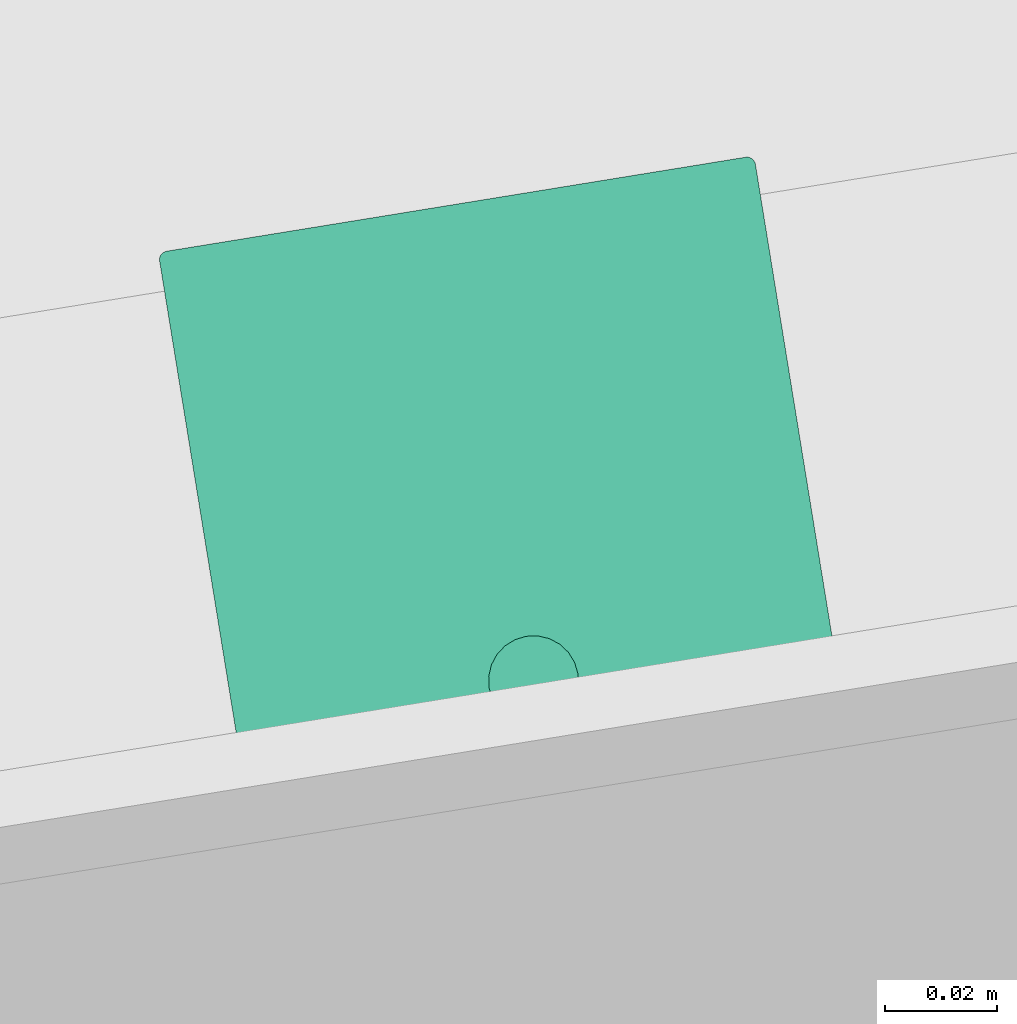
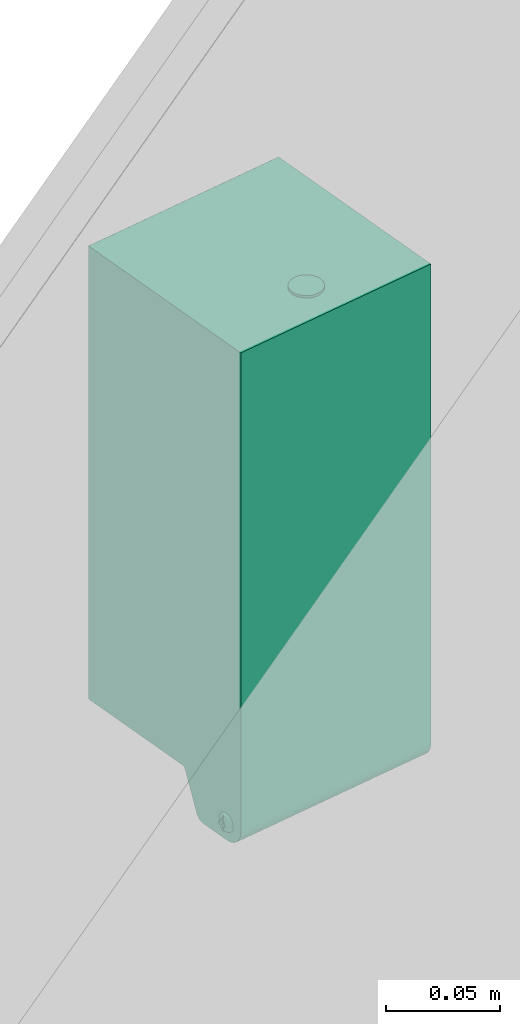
# One storey, part 34 of 38: 1 flow terminal.
"""IFC2X3 building model written with IfcOpenShell, lengths in millimetres."""

from ifc_helpers import new_model, entity, si_unit, converted_unit, derived_unit, direction, frame, origin, origin_with_axes, place, context, subcontext, project, spatial, face_set, surface_model, source, transform, mapped, material, material_list, type_object, element, save


model = new_model("IFC2X3")

# Units and contexts
model_context = context("Model", 3, precision=0.01, world=origin(), true_north=direction((6.12323399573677e-17, 1.0)))
plan_context = context("Plan", 3, precision=1e-05, world=origin_with_axes())
body_context = subcontext(model_context, "Body", "Model", "MODEL_VIEW")
ifc_project = project(units=[converted_unit("PLANEANGLEUNIT", "DEGREE", entity("IfcPositiveLengthMeasure", 0.0174532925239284), si_unit("PLANEANGLEUNIT", "RADIAN"), dimensions=[0, 0, 0, 0, 0, 0, 0]), si_unit("AREAUNIT", "SQUARE_METRE"), si_unit("LENGTHUNIT", "METRE", prefix="MILLI"), si_unit("MASSUNIT", "GRAM", prefix="KILO"), si_unit("POWERUNIT", "WATT"), si_unit("PRESSUREUNIT", "PASCAL", prefix="KILO"), si_unit("FORCEUNIT", "NEWTON", prefix="KILO"), si_unit("ELECTRICVOLTAGEUNIT", "VOLT"), si_unit("ELECTRICCURRENTUNIT", "AMPERE"), si_unit("THERMODYNAMICTEMPERATUREUNIT", "DEGREE_CELSIUS"), si_unit("TIMEUNIT", "SECOND"), si_unit("VOLUMEUNIT", "CUBIC_METRE"), derived_unit("LINEARVELOCITYUNIT", [(si_unit("LENGTHUNIT", "METRE"), 1), (si_unit("TIMEUNIT", "SECOND"), -1)]), derived_unit("VOLUMETRICFLOWRATEUNIT", [(si_unit("VOLUMEUNIT", "CUBIC_METRE"), 1), (si_unit("TIMEUNIT", "SECOND"), -1)]), derived_unit("THERMALTRANSMITTANCEUNIT", [(si_unit("POWERUNIT", "WATT"), 1), (si_unit("THERMODYNAMICTEMPERATUREUNIT", "KELVIN"), -1), (si_unit("AREAUNIT", "SQUARE_METRE"), -1)]), derived_unit("SOUNDPRESSUREUNIT", [(si_unit("PRESSUREUNIT", "PASCAL"), 1)])], contexts=[model_context, plan_context])

# Site, building, storey
site_placement = place(None, frame((-0.00071070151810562, 0.00438415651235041, 0.0), z_axis=(0.0, 0.0, 1.0), x_axis=(-0.160236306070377, 0.987078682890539, 0.0)))
site = spatial("IfcSite", under=ifc_project, at=site_placement, Name="Default", CompositionType="ELEMENT")
building_placement = place(site_placement, origin_with_axes())
building = spatial("IfcBuilding", under=site, at=building_placement, Name="TOO", CompositionType="ELEMENT")
storey_placement = place(building_placement, frame((0.0, 0.0, 50999.9999999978), z_axis=(0.0, 0.0, 1.0), x_axis=(1.0, 0.0, 0.0)))
storey = spatial("IfcBuildingStorey", under=building, at=storey_placement, Name="Nivå D-H01", CompositionType="ELEMENT", Elevation=50999.9999999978)

# Flow terminal
ifc_material_1 = material(Name="GFRP")
ifc_material_2 = material(Name="Satin")
ifc_material_list_1 = material_list([ifc_material_1, ifc_material_2])
ifc_material_list_2 = material_list([ifc_material_2, ifc_material_1])
distribution_element_type = type_object("IfcDistributionElementType", Name="A274 - Såp dispenser-berøringsfri:Såp-berøringsfri", material=ifc_material_list_2)
shared_shape = source(origin(), body_context, "Body", "SurfaceModel", [
    surface_model("IfcFaceBasedSurfaceModel", [(53.867833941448, -70.0655699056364, 28.580410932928), (53.867833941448, -70.0655699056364, 23.5804109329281), (49.562616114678, -74.3707877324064, 23.5804109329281), (49.562616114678, -74.3707877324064, 28.580410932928), (53.867833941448, -78.6760055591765, 23.5804109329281), (53.867833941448, -78.6760055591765, 28.580410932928), (58.173051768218, -74.3707877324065, 23.5804109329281), (58.173051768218, -74.3707877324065, 28.580410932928), (53.867833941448, -74.3707877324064, 28.580410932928), (51.6222204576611, -74.3707877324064, 10.5765808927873), (53.867833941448, -74.3707877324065, 10.5765808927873), (53.867833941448, -76.6164012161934, 10.5765808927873), (53.867833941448, -72.1251742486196, 10.5765808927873), (56.1134474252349, -74.3707877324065, 10.5765808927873)], [face_set([[[0, 1, 2, 3]], [[2, 4, 5, 3]], [[5, 4, 6, 7]], [[6, 1, 0, 7]], [[5, 8, 3]], [[5, 7, 8]], [[0, 8, 7]], [[0, 3, 8]], [[9, 10, 11]], [[10, 9, 12]], [[13, 10, 12]], [[10, 13, 11]], [[12, 9, 2, 1]], [[2, 9, 11, 4]], [[11, 13, 6, 4]], [[6, 13, 12, 1]]])]),
    surface_model("IfcFaceBasedSurfaceModel", [(108.0, -39.4140796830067, 23.580410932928), (108.0, -30.697885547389, 3.04634435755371), (108.0, -30.1198302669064, 2.0329055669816), (108.0, -29.3226497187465, 1.1810198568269), (108.0, -28.3497489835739, 0.537070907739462), (108.0, -27.2541007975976, 0.136120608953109), (108.0, -26.0953612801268, 0.0), (108.0, -9.47406113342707, 0.0), (108.0, -7.02199367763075, 0.322820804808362), (108.0, -4.73703056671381, 1.26928351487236), (108.0, -2.77488826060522, 2.77488826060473), (108.0, -1.26928351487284, 4.73703056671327), (108.0, -0.322820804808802, 7.02199367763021), (108.0, 0.0, 9.47406113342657), (108.0, 0.0, 267.0), (108.0, -102.0, 267.0), (108.0, -105.492714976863, 267.0), (108.0, -105.492714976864, 23.5804109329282), (108.0, -102.0, 23.5804109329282), (108.0, -10.1917276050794, 14.4016882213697), (108.0, -8.90825756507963, 14.2327161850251), (108.0, -7.71225388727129, 13.7373152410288), (108.0, -6.68522224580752, 12.9492461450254), (108.0, -5.89715314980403, 11.9222145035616), (108.0, -5.4017522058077, 10.7262108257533), (108.0, -5.23278016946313, 9.44274078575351), (108.0, -5.40175220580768, 8.15927074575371), (108.0, -5.89715314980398, 6.96326706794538), (108.0, -6.68522224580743, 5.93623542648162), (108.0, -7.71225388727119, 5.14816633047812), (108.0, -8.90825756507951, 4.65276538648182), (108.0, -10.1917276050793, 4.48379335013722), (108.0, -11.4751976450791, 4.65276538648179), (108.0, -12.6712013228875, 5.14816633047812), (108.0, -13.6982329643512, 5.93623542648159), (108.0, -14.4863020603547, 6.96326706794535), (108.0, -14.981703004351, 8.15927074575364), (108.0, -15.1506750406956, 9.44274078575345), (108.0, -14.981703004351, 10.7262108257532), (108.0, -14.4863020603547, 11.9222145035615), (108.0, -13.6982329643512, 12.9492461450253), (108.0, -12.6712013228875, 13.7373152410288), (108.0, -11.4751976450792, 14.2327161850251), (0.0, 0.0, 267.0), (0.0, 0.0, 9.47406113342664), (0.0, -0.322820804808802, 7.02199367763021), (0.0, -1.26928351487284, 4.73703056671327), (0.0, -2.77488826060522, 2.77488826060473), (0.0, -4.73703056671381, 1.26928351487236), (0.0, -7.02199367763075, 0.322820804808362), (0.0, -9.47406113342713, 0.0), (0.0, -26.0953612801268, 0.0), (0.0, -27.2541007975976, 0.136120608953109), (0.0, -28.3497489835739, 0.537070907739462), (0.0, -29.3226497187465, 1.1810198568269), (0.0, -30.1198302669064, 2.0329055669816), (0.0, -30.697885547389, 3.04634435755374), (0.0, -39.4140796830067, 23.580410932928), (0.0, -102.0, 23.5804109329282), (0.0, -105.492714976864, 23.5804109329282), (0.0, -105.492714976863, 267.0), (0.0, -102.0, 267.0), (0.0, -10.1917276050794, 4.47674269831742), (0.0, -8.90825756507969, 4.64571473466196), (0.0, -7.71225388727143, 5.14111567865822), (0.0, -6.68522224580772, 5.92918477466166), (0.0, -5.89715314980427, 6.95621641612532), (0.0, -5.40175220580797, 8.15222009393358), (0.0, -5.2327801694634, 9.43569013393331), (0.0, -5.40175220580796, 10.719160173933), (0.0, -5.89715314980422, 11.9151638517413), (0.0, -6.68522224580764, 12.942195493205), (0.0, -7.71225388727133, 13.7302645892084), (0.0, -8.90825756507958, 14.2256655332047), (0.0, -10.1917276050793, 14.3946375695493), (0.0, -11.4751976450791, 14.2256655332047), (0.0, -12.6712013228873, 13.7302645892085), (0.0, -13.698232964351, 12.942195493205), (0.0, -14.4863020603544, 11.9151638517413), (0.0, -14.9817030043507, 10.7191601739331), (0.0, -15.1506750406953, 9.43569013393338), (0.0, -14.9817030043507, 8.15222009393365), (0.0, -14.4863020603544, 6.95621641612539), (0.0, -13.698232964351, 5.92918477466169), (0.0, -12.6712013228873, 5.14111567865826), (0.0, -11.4751976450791, 4.645714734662), (62.0462019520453, -20.6328952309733, 267.0), (61.7720342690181, -22.7154055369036, 267.0), (60.9682152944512, -24.6559962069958, 267.0), (59.6895239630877, -26.3224191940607, 267.0), (58.0231009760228, -27.6011105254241, 267.0), (56.0825103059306, -28.404929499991, 267.0), (54.0, -28.6790971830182, 267.0), (51.9174896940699, -28.404929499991, 267.0), (49.9768990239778, -27.6011105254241, 267.0), (48.3104760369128, -26.3224191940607, 267.0), (47.0317847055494, -24.6559962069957, 267.0), (46.2279657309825, -22.7154055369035, 267.0), (45.9537980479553, -20.6328952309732, 267.0), (46.2279657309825, -18.5503849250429, 267.0), (47.0317847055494, -16.6097942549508, 267.0), (48.3104760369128, -14.9433712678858, 267.0), (49.9768990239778, -13.6646799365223, 267.0), (51.9174896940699, -12.8608609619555, 267.0), (54.0, -12.5866932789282, 267.0), (56.0825103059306, -12.8608609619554, 267.0), (58.0231009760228, -13.6646799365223, 267.0), (59.6895239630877, -14.9433712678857, 267.0), (60.9682152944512, -16.6097942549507, 267.0), (61.7720342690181, -18.5503849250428, 267.0), (106.492714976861, -107.0, 265.49271497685), (1.50728502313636, -107.0, 265.49271497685), (1.50728502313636, -107.0, 25.0876959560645), (106.492714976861, -107.0, 25.0876959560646), (52.7912009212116, -66.0156781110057, 23.5804109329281), (53.8678339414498, -66.0156781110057, 23.5804109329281), (54.8864505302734, -66.0156781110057, 23.5804109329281), (56.180545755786, -66.1860489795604, 23.5804109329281), (57.3864505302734, -66.6855510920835, 23.5804109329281), (58.4219844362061, -67.480144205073, 23.5804109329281), (59.2165775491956, -68.5156781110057, 23.5804109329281), (59.7160796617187, -69.7215828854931, 23.5804109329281), (59.8864505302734, -71.0156781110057, 23.5804109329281), (59.8864505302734, -78.2876945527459, 23.5804109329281), (59.7160796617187, -79.5817897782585, 23.5804109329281), (59.2165775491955, -80.7876945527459, 23.5804109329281), (58.421984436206, -81.8232284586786, 23.5804109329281), (57.3864505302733, -82.6178215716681, 23.5804109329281), (56.1805457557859, -83.1173236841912, 23.5804109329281), (54.8864505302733, -83.2876945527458, 23.5804109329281), (53.8678339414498, -83.2876945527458, 23.5804109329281), (52.7912009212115, -83.2876945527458, 23.5804109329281), (51.4971056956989, -83.1173236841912, 23.5804109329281), (50.2912009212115, -82.617821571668, 23.5804109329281), (49.2556670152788, -81.8232284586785, 23.5804109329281), (48.4610739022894, -80.7876945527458, 23.5804109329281), (47.9615717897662, -79.5817897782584, 23.5804109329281), (47.7912009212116, -78.2876945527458, 23.5804109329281), (47.7912009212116, -71.0156781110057, 23.5804109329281), (47.9615717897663, -69.721582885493, 23.5804109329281), (48.4610739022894, -68.5156781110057, 23.5804109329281), (49.2556670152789, -67.4801442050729, 23.5804109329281), (50.2912009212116, -66.6855510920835, 23.5804109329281), (51.497105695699, -66.1860489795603, 23.5804109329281), (21.4393647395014, -65.982107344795, 23.5804109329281), (34.9323252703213, -65.982107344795, 23.5804109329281), (35.8346332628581, -66.1008984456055, 23.5804109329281), (36.675450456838, -66.4491763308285, 23.5804109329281), (37.3974765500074, -67.0032064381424, 23.5804109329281), (37.9515066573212, -67.7252325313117, 23.5804109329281), (38.2997845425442, -68.5660497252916, 23.5804109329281), (38.4185756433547, -69.4683577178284, 23.5804109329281), (38.4185756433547, -75.8811109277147, 23.5804109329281), (38.2982643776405, -76.7949657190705, 23.5804109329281), (37.9455295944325, -77.6465428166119, 23.5804109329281), (37.3844095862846, -78.3778086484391, 23.5804109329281), (36.6531437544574, -78.9389286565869, 23.5804109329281), (35.801566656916, -79.2916634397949, 23.5804109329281), (34.8877118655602, -79.4119747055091, 23.5804109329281), (21.5001245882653, -79.4119747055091, 23.5804109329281), (20.5896400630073, -79.2921071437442, 23.5804109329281), (19.7412035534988, -78.9406732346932, 23.5804109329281), (19.0126346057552, -78.3816226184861, 23.5804109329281), (18.4535839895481, -77.6530536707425, 23.5804109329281), (18.1021500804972, -76.804617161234, 23.5804109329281), (17.9822825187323, -75.8941326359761, 23.5804109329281), (17.9822825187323, -69.4391895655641, 23.5804109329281), (18.1000797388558, -68.5444308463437, 23.5804109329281), (18.4454437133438, -67.7106484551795, 23.5804109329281), (18.9948384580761, -66.9946632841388, 23.5804109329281), (19.7108236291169, -66.4452685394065, 23.5804109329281), (20.5446060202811, -66.0999045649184, 23.5804109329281), (0.0513594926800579, -105.882826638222, 266.948640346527), (107.948643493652, -105.882826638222, 266.948640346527), (0.201937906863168, -106.24635822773, 266.798068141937), (107.798062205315, -106.24635822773, 266.798068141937), (0.441473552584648, -106.558530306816, 266.55852971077), (107.558523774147, -106.558530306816, 266.55852971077), (107.246360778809, -106.798059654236, 266.246357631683), (0.753642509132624, -106.798059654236, 266.246357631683), (1.11717097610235, -106.948640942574, 265.882826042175), (106.882829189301, -106.948640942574, 265.882826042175), (107.948643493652, -105.882826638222, 23.6317697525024), (107.798062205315, -106.24635822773, 23.7823487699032), (107.558523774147, -106.558530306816, 24.0218849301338), (107.246360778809, -106.798059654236, 24.3340524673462), (106.882829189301, -106.948640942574, 24.6975817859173), (0.0513594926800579, -105.882826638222, 23.6317697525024), (0.201937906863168, -106.24635822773, 23.7823487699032), (0.441473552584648, -106.558530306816, 24.0218849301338), (0.753642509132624, -106.798059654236, 24.3340524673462), (1.11717097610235, -106.948640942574, 24.6975817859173), (103.0, -103.251438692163, 262.0), (103.0, -103.251438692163, 36.8655832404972), (103.0, -5.0, 36.8655832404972), (103.0, -5.0, 262.0), (5.0, -103.251438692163, 262.0), (5.0, -103.251438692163, 36.8655832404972), (5.0, -5.0, 36.8655832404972), (5.0, -5.0, 262.0), (22.8256689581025, -77.59544538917, 36.8655832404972), (22.0943320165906, -77.499163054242, 36.8655832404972), (21.4128344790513, -77.2168775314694, 36.8655832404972), (20.8276192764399, -76.7678261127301, 36.8655832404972), (20.3785678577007, -76.1826109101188, 36.8655832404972), (20.0962823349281, -75.5011133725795, 36.8655832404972), (20.0, -74.7697764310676, 36.8655832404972), (20.0, -70.2955045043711, 36.8655832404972), (20.0960772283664, -69.565725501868, 36.8655832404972), (20.3777614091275, -68.8856797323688, 36.8655832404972), (20.8258562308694, -68.3017111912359, 36.8655832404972), (21.4098247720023, -67.853616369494, 36.8655832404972), (22.0898705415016, -67.5719321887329, 36.8655832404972), (22.8196495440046, -67.4758549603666, 36.8655832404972), (27.3662521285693, -67.4758549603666, 36.8655832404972), (27.3662521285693, -77.5954453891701, 36.8655832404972), (33.6447360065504, -67.4758549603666, 36.8655832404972), (34.3668779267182, -67.5709267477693, 36.8655832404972), (35.0398070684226, -67.8496631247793, 36.8655832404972), (35.6176644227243, -68.2930686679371, 36.8655832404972), (36.0610699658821, -68.8709260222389, 36.8655832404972), (36.3398063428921, -69.5438551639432, 36.8655832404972), (36.4348781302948, -70.2659970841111, 36.8655832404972), (36.4348781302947, -74.7965946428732, 36.8655832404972), (36.3395096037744, -75.5209905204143, 36.8655832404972), (36.059903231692, -76.1960200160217, 36.8655832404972), (35.6151137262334, -76.7756809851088, 36.8655832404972), (35.0354527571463, -77.2204704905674, 36.8655832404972), (34.3604232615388, -77.5000768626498, 36.8655832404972), (33.6360273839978, -77.5954453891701, 36.8655832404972), (29.2343736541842, -77.5954453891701, 36.8655832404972), (29.2343736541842, -67.4758549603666, 36.8655832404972), (45.9537980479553, -20.6328952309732, 268.289828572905), (46.2279657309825, -22.7154055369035, 268.289828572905), (47.0317847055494, -24.6559962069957, 268.289828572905), (48.3104760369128, -26.3224191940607, 268.289828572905), (49.9768990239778, -27.6011105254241, 268.289828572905), (51.9174896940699, -28.404929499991, 268.289828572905), (54.0, -28.6790971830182, 268.289828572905), (56.0825103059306, -28.404929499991, 268.289828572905), (58.0231009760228, -27.6011105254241, 268.289828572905), (59.6895239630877, -26.3224191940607, 268.289828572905), (60.9682152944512, -24.6559962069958, 268.289828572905), (61.7720342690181, -22.7154055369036, 268.289828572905), (62.0462019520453, -20.6328952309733, 268.289828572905), (61.7720342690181, -18.5503849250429, 268.289828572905), (60.9682152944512, -16.6097942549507, 268.289828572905), (59.6895239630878, -14.9433712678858, 268.289828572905), (58.0231009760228, -13.6646799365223, 268.289828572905), (56.0825103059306, -12.8608609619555, 268.289828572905), (54.0, -12.5866932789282, 268.289828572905), (51.91748969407, -12.8608609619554, 268.289828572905), (49.9768990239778, -13.6646799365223, 268.289828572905), (48.3104760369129, -14.9433712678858, 268.289828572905), (47.0317847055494, -16.6097942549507, 268.289828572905), (46.2279657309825, -18.5503849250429, 268.289828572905), (-1.7359445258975, -10.1917277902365, 8.08627173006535), (-2.57580088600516, -10.1917277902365, 6.98785131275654), (-2.57580088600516, -7.74388880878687, 9.43569029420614), (-1.582628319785, -10.1917277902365, 8.77226217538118), (-2.16289401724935, -10.1917277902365, 11.3435016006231), (-1.7359445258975, -10.1917277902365, 10.7851088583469), (-1.43435472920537, -10.1917277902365, 9.43569029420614), (-1.582628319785, -10.1917277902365, 10.0991178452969), (-2.57580088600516, -10.1917277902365, 11.8835292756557), (-2.57580088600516, -12.6395662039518, 9.43569029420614), (-2.16289401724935, -10.1917277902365, 7.52787842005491), (-2.05121104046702, -10.1917277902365, 12.820721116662), (-1.65959448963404, -10.1917277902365, 13.5203536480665), (-1.65959448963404, -10.1917277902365, 5.35102694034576), (-2.05121104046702, -10.1917277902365, 6.05065947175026), (110.575799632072, -7.74388880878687, 9.44274098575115), (110.575799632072, -10.1917277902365, 11.8905793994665), (109.735943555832, -10.1917277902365, 10.7921589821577), (109.582628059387, -10.1917277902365, 10.1061691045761), (110.162897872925, -10.1917277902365, 7.53492911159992), (109.735943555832, -10.1917277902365, 8.09332242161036), (109.434354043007, -10.1917277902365, 9.44274098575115), (109.582628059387, -10.1917277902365, 8.77931286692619), (110.575799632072, -10.1917277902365, 6.99490200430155), (110.575799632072, -12.6395662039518, 9.44274098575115), (110.162897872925, -10.1917277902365, 11.3505528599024), (110.05121319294, -10.1917277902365, 6.05771016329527), (109.659594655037, -10.1917277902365, 5.35807763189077), (109.659594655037, -10.1917277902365, 13.5274037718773), (110.05121319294, -10.1917277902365, 12.8277712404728), (52.7912009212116, -66.0156781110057, 21.9289741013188), (51.497105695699, -66.1860489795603, 21.9289741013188), (50.2912009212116, -66.6855510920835, 21.9289741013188), (49.2556670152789, -67.4801442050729, 21.9289741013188), (48.4610739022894, -68.5156781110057, 21.9289741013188), (47.9615717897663, -69.7215828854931, 21.9289741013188), (47.7912009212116, -71.0156781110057, 21.9289741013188), (47.7912009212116, -78.2876945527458, 21.9289741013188), (47.9615717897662, -79.5817897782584, 21.9289741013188), (48.4610739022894, -80.7876945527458, 21.9289741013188), (49.2556670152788, -81.8232284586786, 21.9289741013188), (50.2912009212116, -82.617821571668, 21.9289741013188), (51.4971056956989, -83.1173236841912, 21.9289741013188), (52.7912009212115, -83.2876945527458, 21.9289741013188), (53.8678339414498, -83.2876945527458, 21.9289741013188), (54.8864505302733, -83.2876945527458, 21.9289741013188), (56.1805457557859, -83.1173236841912, 21.9289741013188), (57.3864505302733, -82.617821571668, 21.9289741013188), (58.4219844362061, -81.8232284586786, 21.9289741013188), (59.2165775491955, -80.7876945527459, 21.9289741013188), (59.7160796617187, -79.5817897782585, 21.9289741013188), (59.8864505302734, -78.2876945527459, 21.9289741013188), (59.8864505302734, -71.0156781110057, 21.9289741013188), (59.7160796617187, -69.7215828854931, 21.9289741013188), (59.2165775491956, -68.5156781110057, 21.9289741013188), (58.4219844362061, -67.480144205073, 21.9289741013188), (57.3864505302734, -66.6855510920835, 21.9289741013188), (56.180545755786, -66.1860489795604, 21.9289741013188), (54.8864505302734, -66.0156781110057, 21.9289741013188), (53.8678339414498, -66.0156781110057, 21.9289741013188), (20.0962819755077, -75.5011146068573, 21.9289735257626), (20.3785685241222, -76.1826091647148, 21.9289735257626), (20.0000010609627, -74.7697775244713, 21.9289735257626), (20.8276190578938, -76.7678250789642, 21.9289735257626), (22.0943318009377, -77.4991667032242, 21.9289735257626), (22.8256688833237, -77.5954453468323, 21.9289735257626), (21.4128349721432, -77.2168801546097, 21.9289735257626), (27.3662521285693, -77.5954453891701, 21.9289741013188), (27.3662521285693, -67.4758549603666, 21.9289741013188), (22.8196495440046, -67.4758549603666, 21.9289741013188), (21.4098237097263, -67.8536162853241, 21.9289735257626), (22.0898694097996, -67.5719338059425, 21.9289735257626), (20.8258568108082, -68.3017130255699, 21.9289735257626), (20.0960775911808, -69.5657256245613, 21.9289735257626), (20.0000010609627, -70.2955048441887, 21.9289735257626), (20.3777623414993, -68.8856799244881, 21.9289735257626), (36.0610710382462, -68.8709279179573, 21.9289735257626), (36.3398058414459, -69.5438565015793, 21.9289735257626), (36.4348786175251, -70.2659962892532, 21.9289735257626), (35.617663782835, -68.2930698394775, 21.9289735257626), (33.6447350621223, -67.4758550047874, 21.9289735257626), (34.3668771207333, -67.5709255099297, 21.9289735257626), (35.0398079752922, -67.8496648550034, 21.9289735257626), (29.2343736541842, -67.4758549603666, 21.9289741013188), (29.2343736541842, -77.5954453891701, 21.9289741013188), (33.6360273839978, -77.5954453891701, 21.9289741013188), (34.3604231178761, -77.5000750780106, 21.9289735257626), (35.0354523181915, -77.2204682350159, 21.9289735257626), (35.6151135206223, -76.7756825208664, 21.9289735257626), (36.4348786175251, -74.7965927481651, 21.9289735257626), (36.3395106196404, -75.5209898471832, 21.9289735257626), (36.0599037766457, -76.1960213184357, 21.9289735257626), (21.4393647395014, -65.982107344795, 21.9289741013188), (20.5446060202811, -66.0999045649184, 21.9289741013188), (19.7108236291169, -66.4452685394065, 21.9289741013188), (18.9948384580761, -66.9946632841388, 21.9289741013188), (18.4454437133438, -67.7106484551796, 21.9289741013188), (18.1000797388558, -68.5444308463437, 21.9289741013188), (17.9822825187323, -69.4391895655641, 21.9289741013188), (17.9822825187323, -75.8941326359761, 21.9289741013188), (18.1021500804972, -76.8046171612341, 21.9289741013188), (18.4535839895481, -77.6530536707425, 21.9289741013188), (19.0126346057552, -78.3816226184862, 21.9289741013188), (19.7412035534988, -78.9406732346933, 21.9289741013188), (20.5896400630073, -79.2921071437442, 21.9289741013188), (21.5001245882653, -79.4119747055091, 21.9289741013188), (34.8877118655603, -79.4119747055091, 21.9289741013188), (35.8015666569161, -79.2916634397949, 21.9289741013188), (36.6531437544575, -78.9389286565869, 21.9289741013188), (37.3844095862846, -78.377808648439, 21.9289741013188), (37.9455295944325, -77.6465428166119, 21.9289741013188), (38.2982643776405, -76.7949657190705, 21.9289741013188), (38.4185756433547, -75.8811109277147, 21.9289741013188), (38.4185756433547, -69.4683577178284, 21.9289741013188), (38.2997845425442, -68.5660497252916, 21.9289741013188), (37.9515066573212, -67.7252325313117, 21.9289741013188), (37.3974765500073, -67.0032064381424, 21.9289741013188), (36.675450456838, -66.4491763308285, 21.9289741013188), (35.8346332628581, -66.1008984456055, 21.9289741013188), (34.9323252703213, -65.982107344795, 21.9289741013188)], [face_set([[[0, 1, 2, 3, 4, 5, 6, 7, 8, 9, 10, 11, 12, 13, 14, 15, 16, 17, 18], [19, 20, 21, 22, 23, 24, 25, 26, 27, 28, 29, 30, 31, 32, 33, 34, 35, 36, 37, 38, 39, 40, 41, 42]], [[43, 44, 45, 46, 47, 48, 49, 50, 51, 52, 53, 54, 55, 56, 57, 58, 59, 60, 61], [62, 63, 64, 65, 66, 67, 68, 69, 70, 71, 72, 73, 74, 75, 76, 77, 78, 79, 80, 81, 82, 83, 84, 85]], [[14, 43, 61, 60, 16, 15], [86, 87, 88, 89, 90, 91, 92, 93, 94, 95, 96, 97, 98, 99, 100, 101, 102, 103, 104, 105, 106, 107, 108, 109]], [[110, 111, 112, 113]], [[57, 58, 59, 17, 18, 0], [114, 115, 116, 117, 118, 119, 120, 121, 122, 123, 124, 125, 126, 127, 128, 129, 130, 131, 132, 133, 134, 135, 136, 137, 138, 139, 140, 141, 142, 143], [144, 145, 146, 147, 148, 149, 150, 151, 152, 153, 154, 155, 156, 157, 158, 159, 160, 161, 162, 163, 164, 165, 166, 167, 168, 169, 170, 171]], [[1, 0, 57, 56]], [[1, 56, 55, 2]], [[2, 55, 54, 3]], [[3, 54, 53, 4]], [[4, 53, 52, 5]], [[5, 52, 51, 6]], [[7, 6, 51, 50]], [[8, 49, 48, 9]], [[9, 48, 47, 10]], [[7, 50, 49, 8]], [[11, 46, 45, 12]], [[12, 45, 44, 13]], [[46, 11, 10, 47]], [[14, 13, 44, 43]], [[16, 60, 172, 173]], [[173, 172, 174, 175]], [[176, 177, 175, 174]], [[178, 179, 180, 181]], [[181, 180, 111, 110]], [[179, 178, 177, 176]], [[17, 16, 173, 182]], [[182, 173, 175, 183]], [[177, 184, 183, 175]], [[185, 178, 181, 186]], [[186, 181, 110, 113]], [[178, 185, 184, 177]], [[59, 17, 182, 187]], [[187, 182, 183, 188]], [[184, 189, 188, 183]], [[190, 185, 186, 191]], [[191, 186, 113, 112]], [[185, 190, 189, 184]], [[60, 59, 187, 172]], [[172, 187, 188, 174]], [[189, 176, 174, 188]], [[179, 190, 191, 180]], [[180, 191, 112, 111]], [[190, 179, 176, 189]], [[192, 193, 194, 195]], [[196, 197, 198, 199]], [[192, 196, 197, 193]], [[193, 194, 198, 197], [200, 201, 202, 203, 204, 205, 206, 207, 208, 209, 210, 211, 212, 213, 214, 215], [216, 217, 218, 219, 220, 221, 222, 223, 224, 225, 226, 227, 228, 229, 230, 231]], [[194, 195, 199, 198]], [[195, 199, 196, 192]], [[232, 233, 234, 235, 236, 237, 238, 239, 240, 241, 242, 243, 244, 245, 246, 247, 248, 249, 250, 251, 252, 253, 254, 255]], [[98, 97, 233, 232]], [[233, 234, 96, 97]], [[235, 236, 94, 95]], [[234, 235, 95, 96]], [[236, 237, 93, 94]], [[92, 93, 237, 238]], [[238, 239, 91, 92]], [[239, 240, 90, 91]], [[241, 242, 88, 89]], [[240, 241, 89, 90]], [[242, 243, 87, 88]], [[244, 243, 87, 86]], [[86, 109, 245, 244]], [[109, 108, 246, 245]], [[107, 106, 248, 247]], [[108, 107, 247, 246]], [[106, 105, 249, 248]], [[250, 249, 105, 104]], [[104, 103, 251, 250]], [[103, 102, 252, 251]], [[101, 100, 254, 253]], [[102, 101, 253, 252]], [[100, 99, 255, 254]], [[232, 255, 99, 98]], [[256, 257, 258]], [[259, 256, 260, 261]], [[262, 259, 261, 263]], [[256, 260, 258]], [[260, 264, 258]], [[261, 265, 264]], [[266, 265, 257]], [[256, 261, 263, 262]], [[261, 266, 265]], [[256, 266, 261]], [[267, 268, 269, 270]], [[257, 258, 270]], [[269, 68, 67]], [[269, 67, 66]], [[63, 62, 269]], [[270, 267, 258]], [[65, 64, 269]], [[66, 65, 269]], [[63, 269, 64]], [[258, 264, 267]], [[69, 68, 268]], [[268, 68, 269]], [[69, 268, 70]], [[71, 70, 268]], [[268, 72, 73]], [[268, 73, 74]], [[72, 268, 71]], [[265, 264, 268]], [[80, 79, 268]], [[268, 79, 78]], [[77, 78, 268]], [[268, 74, 75]], [[268, 76, 77]], [[76, 268, 75]], [[269, 265, 268]], [[81, 80, 269]], [[269, 80, 268]], [[265, 257, 269]], [[81, 269, 82]], [[83, 82, 269]], [[85, 84, 269]], [[62, 85, 269]], [[83, 269, 84]], [[271, 272, 273]], [[274, 273, 275, 276]], [[277, 274, 276, 278]], [[273, 275, 271]], [[271, 279, 275]], [[279, 280, 276]], [[272, 280, 281]], [[273, 276, 278, 277]], [[276, 281, 280]], [[273, 281, 276]], [[282, 283, 284, 285]], [[272, 271, 285]], [[284, 25, 24]], [[284, 24, 23]], [[284, 19, 20]], [[285, 282, 271]], [[284, 21, 22]], [[23, 22, 284]], [[21, 284, 20]], [[271, 279, 282]], [[26, 25, 283]], [[283, 25, 284]], [[26, 283, 27]], [[28, 27, 283]], [[30, 29, 283]], [[31, 30, 283]], [[28, 283, 29]], [[283, 279, 280]], [[37, 36, 283]], [[283, 36, 35]], [[283, 35, 34]], [[32, 31, 283]], [[34, 33, 283]], [[32, 283, 33]], [[284, 280, 283]], [[38, 37, 284]], [[284, 37, 283]], [[284, 272, 280]], [[38, 284, 39]], [[284, 39, 40]], [[284, 41, 42]], [[284, 42, 19]], [[41, 284, 40]], [[286, 287, 288, 289, 290, 291, 292, 293, 294, 295, 296, 297, 298, 299, 300, 301, 302, 303, 304, 305, 306, 307, 308, 309, 310, 311, 312, 313, 314, 315]], [[114, 143, 287, 286]], [[143, 142, 288, 287]], [[289, 288, 142, 141]], [[141, 140, 290, 289]], [[140, 139, 291, 290]], [[138, 139, 291, 292]], [[292, 138, 137, 293]], [[293, 294, 136, 137]], [[294, 295, 135, 136]], [[134, 135, 295, 296]], [[296, 297, 133, 134]], [[297, 298, 132, 133]], [[131, 132, 298, 299]], [[299, 300, 130, 131]], [[300, 301, 129, 130]], [[301, 302, 128, 129]], [[302, 303, 127, 128]], [[126, 127, 303, 304]], [[304, 305, 125, 126]], [[305, 306, 124, 125]], [[123, 124, 306, 307]], [[307, 308, 122, 123]], [[308, 309, 121, 122]], [[121, 120, 310, 309]], [[311, 310, 120, 119]], [[119, 118, 312, 311]], [[118, 117, 313, 312]], [[314, 313, 117, 116]], [[314, 116, 115, 315]], [[315, 115, 114, 286]], [[205, 316, 317, 204]], [[206, 318, 316, 205]], [[319, 203, 204, 317]], [[201, 320, 321, 200]], [[202, 322, 320, 201]], [[322, 202, 203, 319]], [[321, 323, 215, 200]], [[323, 324, 214, 215]], [[324, 214, 213, 325]], [[211, 326, 327, 212]], [[212, 327, 325, 213]], [[328, 210, 211, 326]], [[208, 329, 330, 207]], [[209, 331, 329, 208]], [[331, 209, 210, 328]], [[206, 318, 330, 207]], [[220, 332, 333, 221]], [[221, 333, 334, 222]], [[332, 220, 219, 335]], [[216, 336, 337, 217]], [[217, 337, 338, 218]], [[335, 219, 218, 338]], [[336, 216, 231, 339]], [[339, 231, 230, 340]], [[340, 341, 229, 230]], [[228, 342, 343, 227]], [[229, 341, 342, 228]], [[344, 226, 227, 343]], [[223, 345, 346, 224]], [[224, 346, 347, 225]], [[344, 226, 225, 347]], [[222, 223, 345, 334]], [[348, 349, 350, 351, 352, 353, 354, 355, 356, 357, 358, 359, 360, 361, 362, 363, 364, 365, 366, 367, 368, 369, 370, 371, 372, 373, 374, 375], [318, 330, 329, 331, 328, 326, 327, 325, 324, 323, 321, 320, 322, 319, 317, 316], [334, 345, 346, 347, 344, 343, 342, 341, 340, 339, 336, 337, 338, 335, 332, 333]], [[144, 171, 349, 348]], [[349, 350, 170, 171]], [[169, 170, 350, 351]], [[351, 352, 168, 169]], [[352, 353, 167, 168]], [[166, 167, 353, 354]], [[354, 166, 165, 355]], [[355, 356, 164, 165]], [[356, 357, 163, 164]], [[162, 163, 357, 358]], [[358, 359, 161, 162]], [[359, 360, 160, 161]], [[159, 160, 360, 361]], [[361, 362, 158, 159]], [[362, 363, 157, 158]], [[363, 364, 156, 157]], [[155, 156, 364, 365]], [[365, 366, 154, 155]], [[154, 153, 367, 366]], [[368, 367, 153, 152]], [[368, 369, 151, 152]], [[151, 150, 370, 369]], [[150, 149, 371, 370]], [[372, 371, 149, 148]], [[148, 147, 373, 372]], [[147, 146, 374, 373]], [[375, 374, 146, 145]], [[375, 145, 144, 348]]])]),
])
flow_terminal_placement = place(storey_placement, frame((779952.619644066, -596772.480498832, 950.0), z_axis=(0.0, 0.0, 1.0), x_axis=(0.0, 1.0, 0.0)))
element("IfcFlowTerminal", 1, at=flow_terminal_placement, inside=storey, type_object=distribution_element_type, material=ifc_material_list_1, Name="A274 - Såp dispenser-berøringsfri:Såp-berøringsfri", ObjectType="A274 - Såp dispenser-berøringsfri:Såp-berøringsfri", context=body_context, shape_type="MappedRepresentation", body=[
    mapped(shared_shape, transform((0.0, 0.0, 0.0), scale=1.0)),
])

save(model, "model.ifc")
